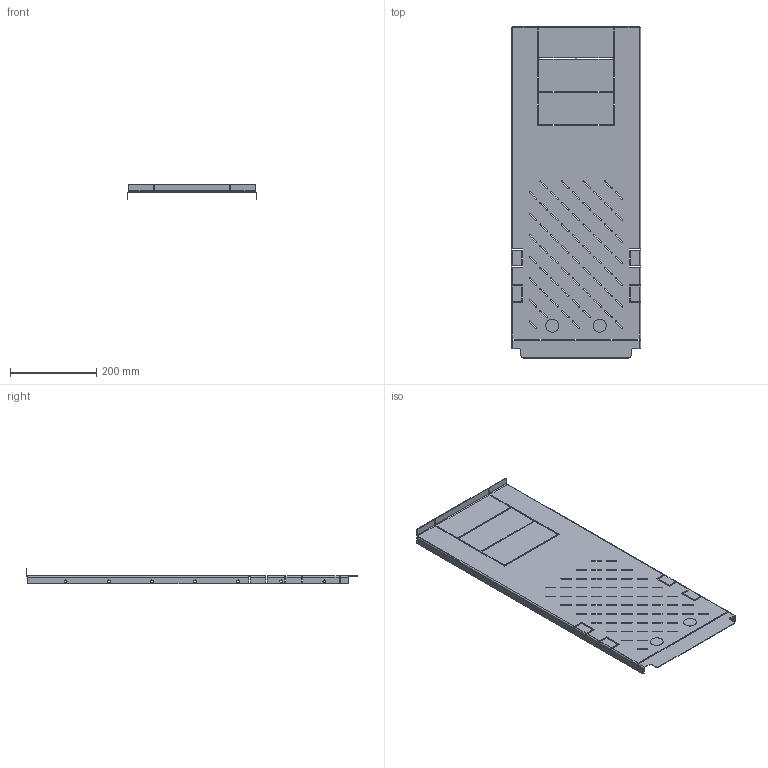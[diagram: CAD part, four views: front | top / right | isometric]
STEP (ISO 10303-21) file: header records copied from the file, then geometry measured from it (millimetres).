
FILE_DESCRIPTION(('STEP AP203'), '1');
FILE_NAME('3605 青牮桢 泐痂珙眚嚯铄', '', ('UNSPECIFIED'), ('UNSPECIFIED'), 'C3D Converter', 'C3D Toolkit', '');
FILE_SCHEMA(('CONFIG_CONTROL_DESIGN'));
Length unit declared in the file: millimetre
Products named in the file (1): 3605.40.80
Bounding box: 300 x 770 x 36.5 mm (x, y, z)
Volume: 373757.5 mm3; surface area: 512805.1 mm2
Topology: 1 solids, 1 shells, 554 faces, 1608 edges, 1032 vertices
Faces by surface type: plane 366, cylinder 188
Full cylindrical faces by diameter (mm): 6.5 x14
Entity records: 18538 total; most frequent: ORIENTED_EDGE 3188, CARTESIAN_POINT 3181, DIRECTION 3080, EDGE_CURVE 1594, LINE 1218, VECTOR 1218, VERTEX_POINT 1032, AXIS2_PLACEMENT_3D 931
